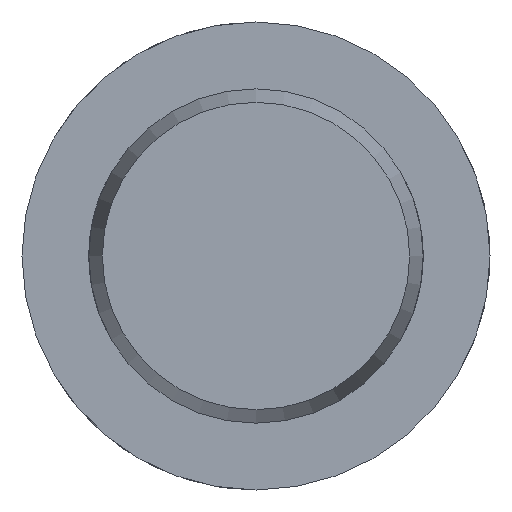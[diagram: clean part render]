
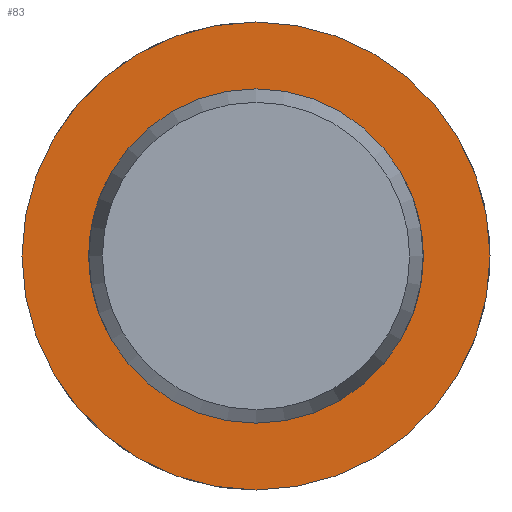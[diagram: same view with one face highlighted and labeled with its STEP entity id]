
A CAD part, left-side view. The second image highlights one B-rep face of the part: STEP entity #83.
In plain terms, the highlighted planar face has unit normal (-1, 0, 0).
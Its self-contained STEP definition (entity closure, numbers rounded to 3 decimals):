
#83 = ADVANCED_FACE( '', ( #128, #129 ), #130, .F. );
#128 = FACE_OUTER_BOUND( '', #204, .T. );
#129 = FACE_BOUND( '', #205, .T. );
#130 = PLANE( '', #206 );
#204 = EDGE_LOOP( '', ( #318 ) );
#205 = EDGE_LOOP( '', ( #319 ) );
#206 = AXIS2_PLACEMENT_3D( '', #320, #321, #322 );
#318 = ORIENTED_EDGE( '', *, *, #481, .F. );
#319 = ORIENTED_EDGE( '', *, *, #471, .T. );
#320 = CARTESIAN_POINT( '', ( 44.6, 5., 0. ) );
#321 = DIRECTION( '', ( 1., 0., 0. ) );
#322 = DIRECTION( '', ( 0., 0., -1. ) );
#471 = EDGE_CURVE( '', #541, #541, #542, .T. );
#481 = EDGE_CURVE( '', #559, #559, #560, .T. );
#541 = VERTEX_POINT( '', #726 );
#542 = CIRCLE( '', #727, 5. );
#559 = VERTEX_POINT( '', #881 );
#560 = CIRCLE( '', #882, 7. );
#726 = CARTESIAN_POINT( '', ( 44.6, 0., -5. ) );
#727 = AXIS2_PLACEMENT_3D( '', #943, #944, #945 );
#881 = CARTESIAN_POINT( '', ( 44.6, 0., -7. ) );
#882 = AXIS2_PLACEMENT_3D( '', #964, #965, #966 );
#943 = CARTESIAN_POINT( '', ( 44.6, 0., 0. ) );
#944 = DIRECTION( '', ( 1., 0., 0. ) );
#945 = DIRECTION( '', ( 0., 0., -1. ) );
#964 = CARTESIAN_POINT( '', ( 44.6, 0., 0. ) );
#965 = DIRECTION( '', ( 1., 0., 0. ) );
#966 = DIRECTION( '', ( 0., 0., -1. ) );
